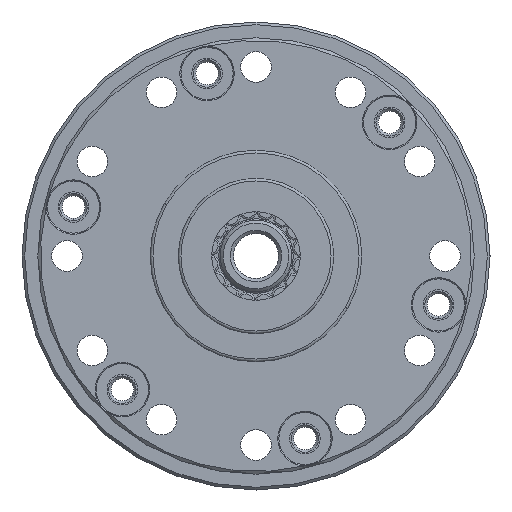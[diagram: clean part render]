
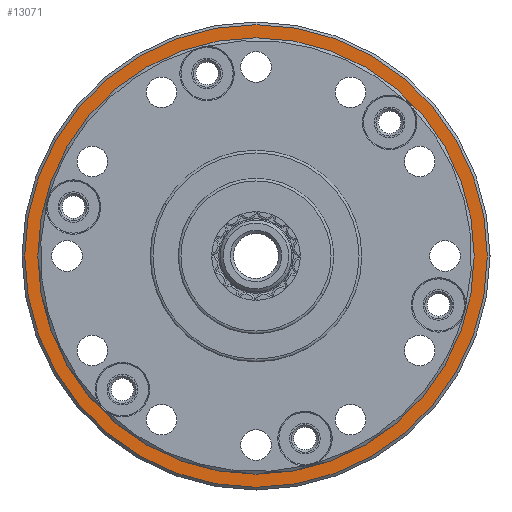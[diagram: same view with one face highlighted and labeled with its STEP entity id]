
A CAD part, left-side view. The second image highlights one B-rep face of the part: STEP entity #13071.
In plain terms, the highlighted planar face has unit normal (-1, 0, 0).
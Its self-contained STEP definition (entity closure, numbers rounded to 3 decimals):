
#443 = CARTESIAN_POINT ( 'NONE',  ( -4.9, -21.001, -12.125 ) ) ;
#662 = AXIS2_PLACEMENT_3D ( 'NONE', #4777, #17884, #17761 ) ;
#778 = VERTEX_POINT ( 'NONE', #19107 ) ;
#2551 = AXIS2_PLACEMENT_3D ( 'NONE', #12884, #11106, #5207 ) ;
#3215 = AXIS2_PLACEMENT_3D ( 'NONE', #12514, #19870, #15659 ) ;
#4777 = CARTESIAN_POINT ( 'NONE',  ( -4.9, 0., 0. ) ) ;
#4859 = CIRCLE ( 'NONE', #2551, 25.7 ) ;
#5190 = FACE_OUTER_BOUND ( 'NONE', #10849, .T. ) ;
#5207 = DIRECTION ( 'NONE',  ( 0., -0.866, -0.5 ) ) ;
#5396 = DIRECTION ( 'NONE',  ( -1., 0., 0. ) ) ;
#5483 = AXIS2_PLACEMENT_3D ( 'NONE', #16166, #10383, #15918 ) ;
#6676 = CIRCLE ( 'NONE', #18204, 25.7 ) ;
#7805 = CARTESIAN_POINT ( 'NONE',  ( -4.9, 21.001, 12.125 ) ) ;
#8450 = FACE_BOUND ( 'NONE', #11119, .T. ) ;
#9748 = ORIENTED_EDGE ( 'NONE', *, *, #12461, .T. ) ;
#9790 = ORIENTED_EDGE ( 'NONE', *, *, #13792, .F. ) ;
#10383 = DIRECTION ( 'NONE',  ( -1., 0., 0. ) ) ;
#10709 = ORIENTED_EDGE ( 'NONE', *, *, #20733, .T. ) ;
#10817 = CARTESIAN_POINT ( 'NONE',  ( -4.9, 0., 0. ) ) ;
#10849 = EDGE_LOOP ( 'NONE', ( #9748, #10709 ) ) ;
#11106 = DIRECTION ( 'NONE',  ( -1., 0., 0. ) ) ;
#11119 = EDGE_LOOP ( 'NONE', ( #16420, #9790 ) ) ;
#11562 = EDGE_CURVE ( 'NONE', #23413, #13736, #17770, .T. ) ;
#12461 = EDGE_CURVE ( 'NONE', #778, #20936, #6676, .T. ) ;
#12514 = CARTESIAN_POINT ( 'NONE',  ( -4.9, 0., 0. ) ) ;
#12884 = CARTESIAN_POINT ( 'NONE',  ( -4.9, 0., 0. ) ) ;
#13071 = ADVANCED_FACE ( 'NONE', ( #5190, #8450 ), #21660, .T. ) ;
#13736 = VERTEX_POINT ( 'NONE', #7805 ) ;
#13792 = EDGE_CURVE ( 'NONE', #13736, #23413, #14449, .T. ) ;
#14449 = CIRCLE ( 'NONE', #662, 24.25 ) ;
#15659 = DIRECTION ( 'NONE',  ( 0., -0.866, -0.5 ) ) ;
#15918 = DIRECTION ( 'NONE',  ( 0., -0.866, -0.5 ) ) ;
#16166 = CARTESIAN_POINT ( 'NONE',  ( -4.9, 0., 0. ) ) ;
#16420 = ORIENTED_EDGE ( 'NONE', *, *, #11562, .F. ) ;
#17573 = CARTESIAN_POINT ( 'NONE',  ( -4.9, -22.257, -12.85 ) ) ;
#17761 = DIRECTION ( 'NONE',  ( 0., -0.866, -0.5 ) ) ;
#17770 = CIRCLE ( 'NONE', #5483, 24.25 ) ;
#17884 = DIRECTION ( 'NONE',  ( -1., 0., 0. ) ) ;
#18204 = AXIS2_PLACEMENT_3D ( 'NONE', #10817, #5396, #22691 ) ;
#19107 = CARTESIAN_POINT ( 'NONE',  ( -4.9, 22.257, 12.85 ) ) ;
#19870 = DIRECTION ( 'NONE',  ( -1., 0., 0. ) ) ;
#20733 = EDGE_CURVE ( 'NONE', #20936, #778, #4859, .T. ) ;
#20936 = VERTEX_POINT ( 'NONE', #17573 ) ;
#21660 = PLANE ( 'NONE',  #3215 ) ;
#22691 = DIRECTION ( 'NONE',  ( 0., -0.866, -0.5 ) ) ;
#23413 = VERTEX_POINT ( 'NONE', #443 ) ;
